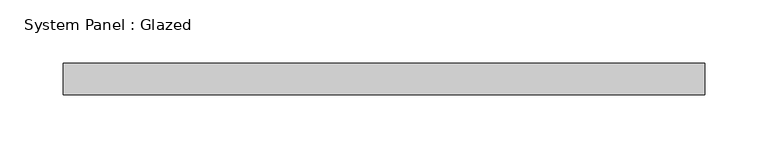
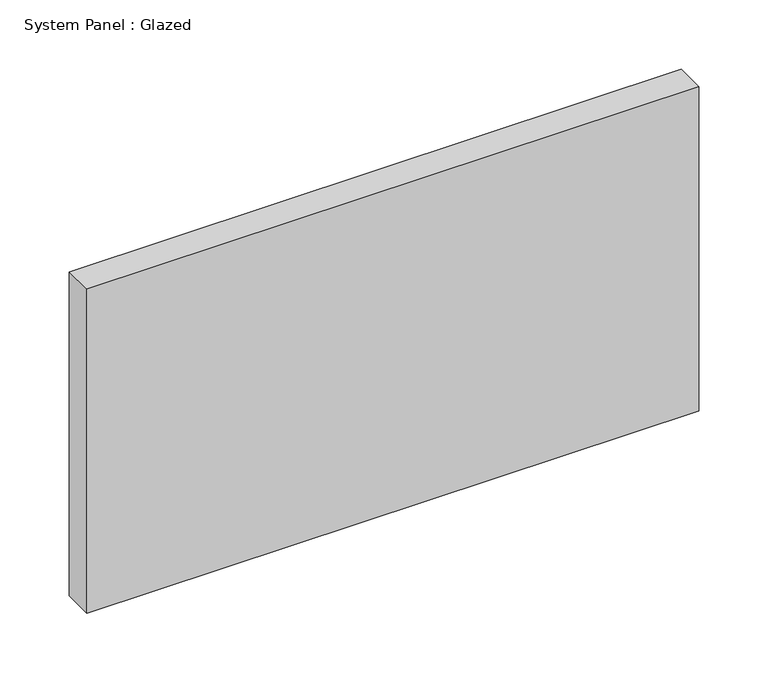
"""IFC4 building model written with IfcOpenShell, lengths in millimetres: plate geometry, System Panel : Glazed."""

from ifc_helpers import new_model, si_unit, origin, origin_with_axes, place, context, project, spatial, polyline, outline, extrude, source, transform, mapped, element, save


def system_panel_glazed_a4b6cea3(model_context):
    return source(origin(), model_context, "Body", "SweptSolid", [
        extrude(outline(polyline([(254.2200031, -12.5), (-254.2200031, -12.5), (-254.2200031, 12.5), (254.2200031, 12.5), (254.2200031, -12.5)])), origin_with_axes(), (0.0, 0.0, 1.0), 285.0),
    ])


if __name__ == "__main__":
    model = new_model("IFC4")
    model_context = context("Model", 3, world=origin())
    ifc_project = project(units=[si_unit("LENGTHUNIT", "METRE", prefix="MILLI")], contexts=[model_context])
    site = spatial("IfcSite", under=ifc_project)
    building = spatial("IfcBuilding", under=site)
    placement = place(None, origin())
    system_panel_glazed_shape = system_panel_glazed_a4b6cea3(model_context)
    element("IfcPlate", 1, ObjectType="System Panel : Glazed", at=placement, inside=building, context=model_context, shape_type="MappedRepresentation", body=[
        mapped(system_panel_glazed_shape, transform((0.0, 0.0, 0.0), x_axis=(1.0, 0.0, 0.0), y_axis=(0.0, 1.0, 0.0), z_axis=(0.0, 0.0, 1.0))),
    ])
    save(model, "model.ifc")
